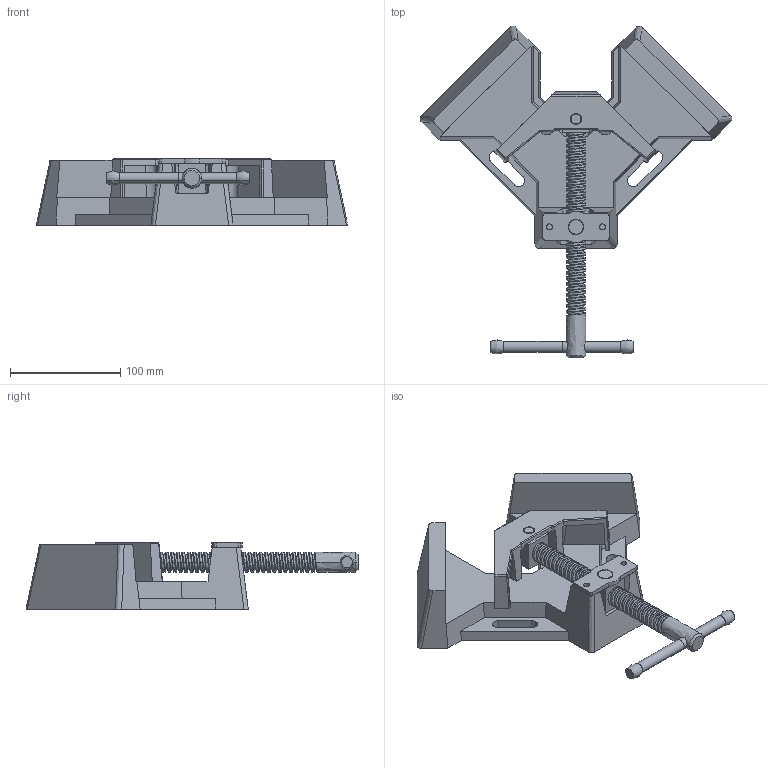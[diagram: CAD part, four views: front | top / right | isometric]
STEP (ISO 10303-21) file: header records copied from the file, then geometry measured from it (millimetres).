
FILE_DESCRIPTION( ( 'STEP AP214' ), '1' );
FILE_NAME( 'S:/3201368x_WSM9.stp', ' ', ( ' ' ), ( ' ' ), 'PSStep 11.0', ' ', ' ' );
FILE_SCHEMA( ( 'AUTOMOTIVE_DESIGN { 1 0 10303 214 1 1 1 1 }' ) );
Length unit declared in the file: metre
Products named in the file (7): 1; 2; 3; 4; 5; 6; 7
Bounding box: 282.36 x 300.89 x 60.1 mm (x, y, z)
Volume: 867782.9 mm3; surface area: 156670.9 mm2
Topology: 6 solids, 90 shells, 274 faces, 931 edges, 759 vertices
Faces by surface type: bspline 274
Entity records: 62019 total; most frequent: CARTESIAN_POINT 54779, ORIENTED_EDGE 1417, EDGE_CURVE 931, B_SPLINE_CURVE_WITH_KNOTS 826, VERTEX_POINT 759, EDGE_LOOP 299, STYLED_ITEM 274, PRESENTATION_STYLE_ASSIGNMENT 274
